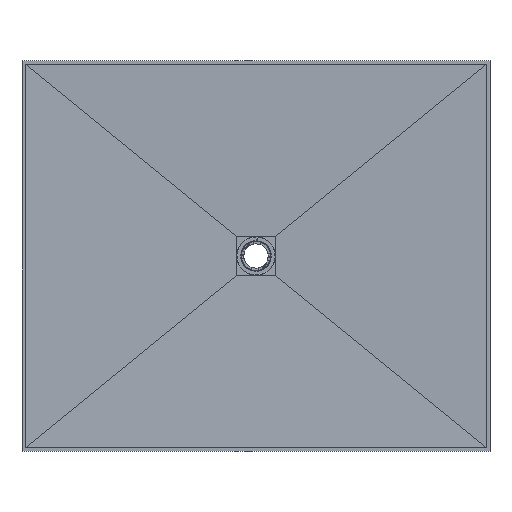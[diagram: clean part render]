
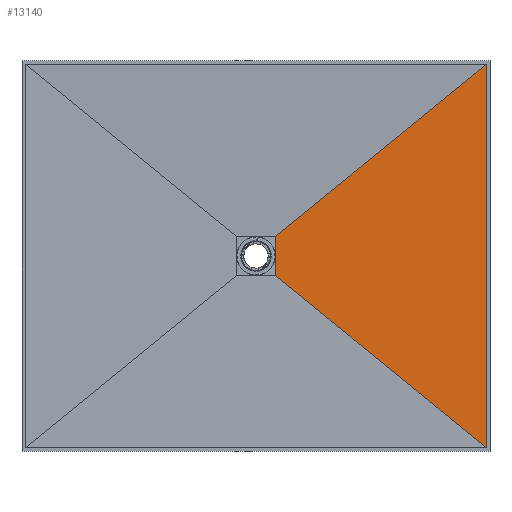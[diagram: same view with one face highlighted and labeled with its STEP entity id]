
A CAD part, top view. The second image highlights one B-rep face of the part: STEP entity #13140.
In plain terms, the highlighted planar face has unit normal (-0.021, 0, 1).
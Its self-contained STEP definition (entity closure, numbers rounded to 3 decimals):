
#2348=FACE_OUTER_BOUND('',#3093,.T.);
#3093=EDGE_LOOP('',(#8808,#8809,#8810,#8811));
#3902=LINE('',#18662,#4523);
#3908=LINE('',#18674,#4529);
#3910=LINE('',#18677,#4531);
#3911=LINE('',#18679,#4532);
#4523=VECTOR('',#15362,10.);
#4529=VECTOR('',#15370,10.);
#4531=VECTOR('',#15374,10.);
#4532=VECTOR('',#15377,10.);
#5139=VERTEX_POINT('',#18659);
#5140=VERTEX_POINT('',#18661);
#5143=VERTEX_POINT('',#18668);
#5145=VERTEX_POINT('',#18672);
#6605=EDGE_CURVE('',#5139,#5140,#3902,.F.);
#6611=EDGE_CURVE('',#5143,#5145,#3908,.F.);
#6613=EDGE_CURVE('',#5139,#5143,#3910,.T.);
#6614=EDGE_CURVE('',#5140,#5145,#3911,.T.);
#8808=ORIENTED_EDGE('',*,*,#6605,.F.);
#8809=ORIENTED_EDGE('',*,*,#6613,.T.);
#8810=ORIENTED_EDGE('',*,*,#6611,.T.);
#8811=ORIENTED_EDGE('',*,*,#6614,.F.);
#13070=PLANE('',#13978);
#13140=ADVANCED_FACE('',(#2348),#13070,.F.);
#13978=AXIS2_PLACEMENT_3D('',#18678,#15375,#15376);
#15362=DIRECTION('',(0.,1.,0.));
#15370=DIRECTION('',(0.,1.,0.));
#15374=DIRECTION('',(-0.775,-0.632,-0.016));
#15375=DIRECTION('center_axis',(0.021,0.,
-1.));
#15376=DIRECTION('ref_axis',(-1.,0.,-0.021));
#15377=DIRECTION('',(-0.775,0.632,-0.016));
#18659=CARTESIAN_POINT('',(900.287,581.784,20.));
#18661=CARTESIAN_POINT('',(900.287,-916.784,20.));
#18662=CARTESIAN_POINT('',(900.287,207.15,20.));
#18668=CARTESIAN_POINT('',(75.487,-91.016,2.5));
#18672=CARTESIAN_POINT('',(75.487,-243.984,2.5));
#18674=CARTESIAN_POINT('',(75.487,207.15,2.5));
#18677=CARTESIAN_POINT('',(359.238,140.443,8.52));
#18678=CARTESIAN_POINT('Origin',(900.273,581.8,20.));
#18679=CARTESIAN_POINT('',(533.376,-617.49,12.215));
